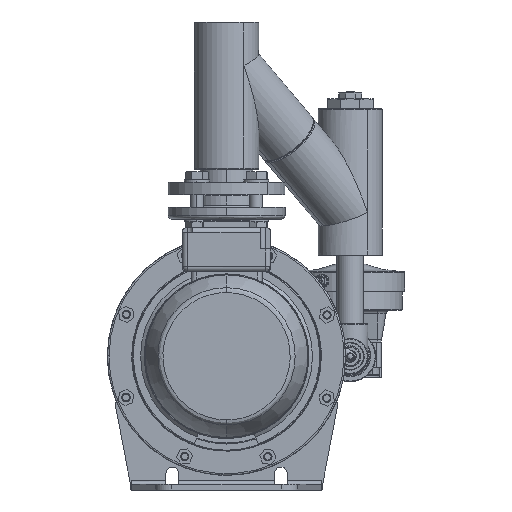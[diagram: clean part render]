
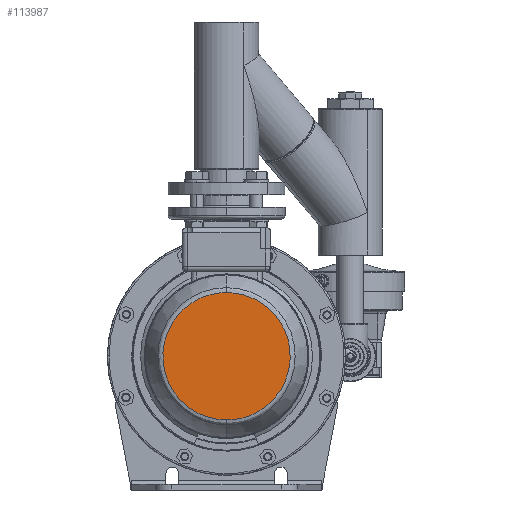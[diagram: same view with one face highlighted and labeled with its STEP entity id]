
A CAD part, front view. The second image highlights one B-rep face of the part: STEP entity #113987.
In plain terms, the highlighted planar face has unit normal (0, -1, 0).
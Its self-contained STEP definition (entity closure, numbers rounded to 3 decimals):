
#5444 = CARTESIAN_POINT ( 'NONE',  ( -154.478, -626.414, 101.193 ) ) ;
#5481 = CARTESIAN_POINT ( 'NONE',  ( -154.478, -626.414, -51.193 ) ) ;
#5507 =( BOUNDED_CURVE ( )  B_SPLINE_CURVE ( 3, ( #5560, #5559, #5558, #5557 ),
 .UNSPECIFIED., .F., .T. ) 
 B_SPLINE_CURVE_WITH_KNOTS ( ( 4, 4 ),
 ( 0., 1. ),
 .UNSPECIFIED. ) 
 CURVE ( )  GEOMETRIC_REPRESENTATION_ITEM ( )  RATIONAL_B_SPLINE_CURVE ( ( 1., 0.333, 0.333, 1. ) ) 
 REPRESENTATION_ITEM ( '' )  );
#5557 = CARTESIAN_POINT ( 'NONE',  ( -154.478, -626.414, 101.193 ) ) ;
#5558 = CARTESIAN_POINT ( 'NONE',  ( -306.864, -626.414, 101.193 ) ) ;
#5559 = CARTESIAN_POINT ( 'NONE',  ( -306.864, -626.414, -51.193 ) ) ;
#5560 = CARTESIAN_POINT ( 'NONE',  ( -154.478, -626.414, -51.193 ) ) ;
#76591 = CARTESIAN_POINT ( 'NONE',  ( -154.478, -626.414, 25. ) ) ;
#76711 = AXIS2_PLACEMENT_3D ( 'NONE', #76591, #76763, #76760 ) ;
#76715 = FACE_OUTER_BOUND ( 'NONE', #113944, .T. ) ;
#76718 = PLANE ( 'NONE',  #76711 ) ;
#76741 = CARTESIAN_POINT ( 'NONE',  ( -2.093, -626.414, 101.193 ) ) ;
#76742 = CARTESIAN_POINT ( 'NONE',  ( -154.478, -626.414, 101.193 ) ) ;
#76752 =( BOUNDED_CURVE ( )  B_SPLINE_CURVE ( 3, ( #76742, #76741, #76840, #76839 ),
 .UNSPECIFIED., .F., .T. ) 
 B_SPLINE_CURVE_WITH_KNOTS ( ( 4, 4 ),
 ( 0., 1. ),
 .UNSPECIFIED. ) 
 CURVE ( )  GEOMETRIC_REPRESENTATION_ITEM ( )  RATIONAL_B_SPLINE_CURVE ( ( 1., 0.333, 0.333, 1. ) ) 
 REPRESENTATION_ITEM ( '' )  );
#76760 = DIRECTION ( 'NONE',  ( 1., 0., 0. ) ) ;
#76763 = DIRECTION ( 'NONE',  ( 0., -1., 0. ) ) ;
#76839 = CARTESIAN_POINT ( 'NONE',  ( -154.478, -626.414, -51.193 ) ) ;
#76840 = CARTESIAN_POINT ( 'NONE',  ( -2.093, -626.414, -51.193 ) ) ;
#113944 = EDGE_LOOP ( 'NONE', ( #113998, #113986 ) ) ;
#113986 = ORIENTED_EDGE ( 'NONE', *, *, #113988, .F. ) ;
#113987 = ADVANCED_FACE ( 'NONE', ( #76715 ), #76718, .T. ) ;
#113988 = EDGE_CURVE ( 'NONE', #117438, #117437, #76752, .T. ) ;
#113998 = ORIENTED_EDGE ( 'NONE', *, *, #117452, .F. ) ;
#117437 = VERTEX_POINT ( 'NONE', #5481 ) ;
#117438 = VERTEX_POINT ( 'NONE', #5444 ) ;
#117452 = EDGE_CURVE ( 'NONE', #117437, #117438, #5507, .T. ) ;
